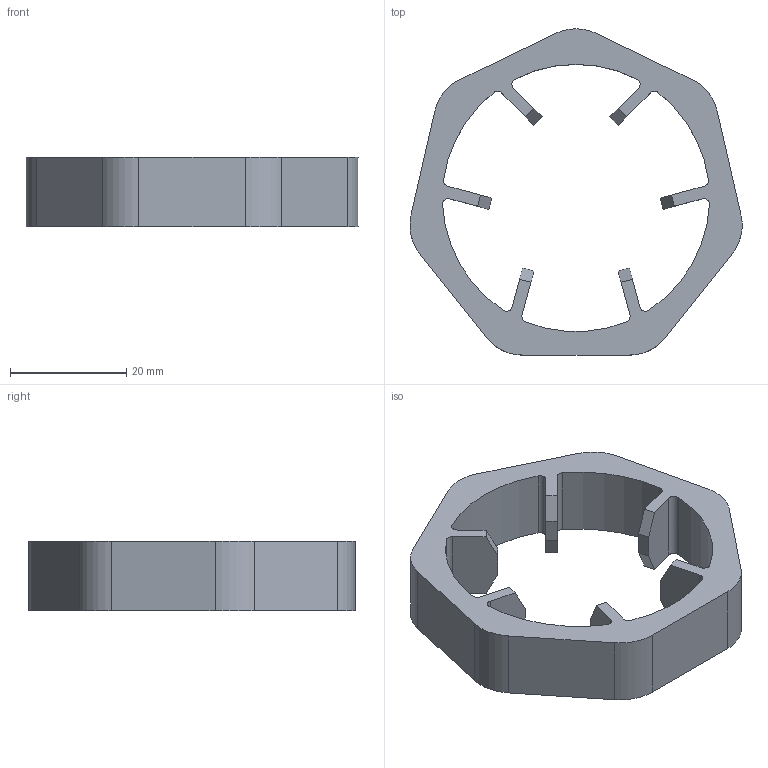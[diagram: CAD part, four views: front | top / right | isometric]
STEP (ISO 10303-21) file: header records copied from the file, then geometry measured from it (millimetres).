
FILE_DESCRIPTION(/* description */ ('Alibre Inc.'),/* implementation_level */ '2;1');
FILE_NAME(/* name */ 'export0',/* time_stamp */ '2011-06-02T21:41:01-07:00',/* author */ (''),/* organization */ (''),/* preprocessor_version */ 'ST-DEVELOPER v10',/* originating_system */ 'Alibre',/* authorisation */ '');
FILE_SCHEMA (('CONFIG_CONTROL_DESIGN'));
Length unit declared in the file: centimetre
Products named in the file (1): ID_1
Bounding box: 57.14 x 56.15 x 12 mm (x, y, z)
Volume: 10601.6 mm3; surface area: 6664.1 mm2
Topology: 1 solids, 1 shells, 64 faces, 186 edges, 124 vertices
Faces by surface type: plane 39, cylinder 25
Entity records: 2095 total; most frequent: ORIENTED_EDGE 372, CARTESIAN_POINT 359, DIRECTION 295, EDGE_CURVE 186, VECTOR 136, LINE 136, VERTEX_POINT 124, AXIS2_PLACEMENT_3D 99
